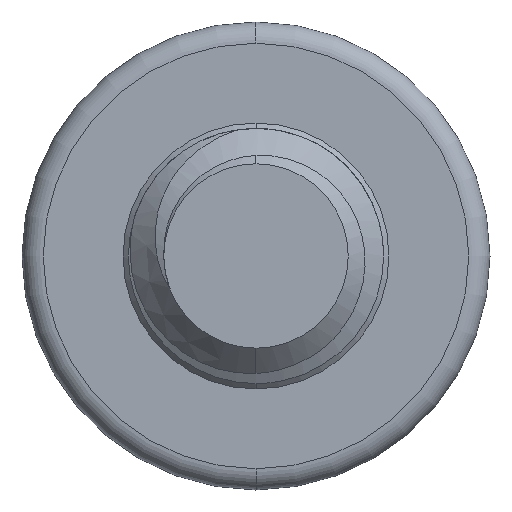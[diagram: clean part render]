
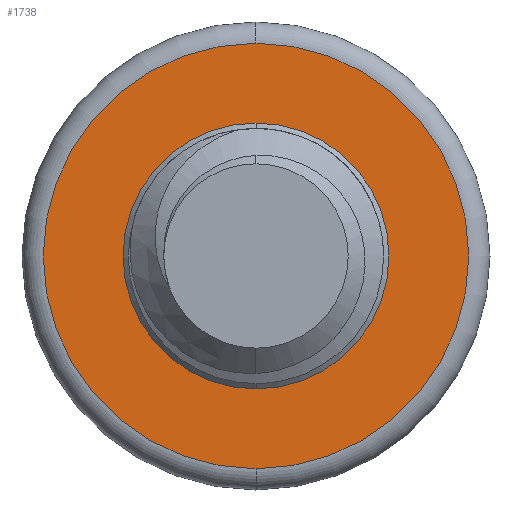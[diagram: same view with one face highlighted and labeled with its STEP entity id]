
A CAD part, left-side view. The second image highlights one B-rep face of the part: STEP entity #1738.
In plain terms, the highlighted planar face has unit normal (-1, 0, 0).
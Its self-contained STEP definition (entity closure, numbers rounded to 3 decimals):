
#90 = DIRECTION ( 'NONE',  ( 0., 0., -1. ) ) ;
#210 = CARTESIAN_POINT ( 'NONE',  ( 2., 0., 1. ) ) ;
#238 = EDGE_LOOP ( 'NONE', ( #472, #3131 ) ) ;
#472 = ORIENTED_EDGE ( 'NONE', *, *, #754, .F. ) ;
#575 = PLANE ( 'NONE',  #1148 ) ;
#638 = DIRECTION ( 'NONE',  ( -1., 0., 0. ) ) ;
#754 = EDGE_CURVE ( 'NONE', #1577, #1064, #3157, .T. ) ;
#774 = CARTESIAN_POINT ( 'NONE',  ( 2., 0., 0. ) ) ;
#869 = FACE_OUTER_BOUND ( 'NONE', #1425, .T. ) ;
#912 = CIRCLE ( 'NONE', #1328, 0.625 ) ;
#916 = DIRECTION ( 'NONE',  ( -1., 0., 0. ) ) ;
#981 = AXIS2_PLACEMENT_3D ( 'NONE', #3286, #1681, #90 ) ;
#1039 = DIRECTION ( 'NONE',  ( 0., 0., -1. ) ) ;
#1064 = VERTEX_POINT ( 'NONE', #3187 ) ;
#1103 = DIRECTION ( 'NONE',  ( 0., 0., -1. ) ) ;
#1148 = AXIS2_PLACEMENT_3D ( 'NONE', #2430, #2702, #1103 ) ;
#1328 = AXIS2_PLACEMENT_3D ( 'NONE', #2501, #916, #2762 ) ;
#1425 = EDGE_LOOP ( 'NONE', ( #3259, #2049 ) ) ;
#1520 = EDGE_CURVE ( 'NONE', #2741, #1655, #2517, .T. ) ;
#1577 = VERTEX_POINT ( 'NONE', #1699 ) ;
#1655 = VERTEX_POINT ( 'NONE', #2922 ) ;
#1681 = DIRECTION ( 'NONE',  ( -1., 0., 0. ) ) ;
#1699 = CARTESIAN_POINT ( 'NONE',  ( 2., 0., 0.625 ) ) ;
#1738 = ADVANCED_FACE ( 'NONE', ( #869, #2976 ), #575, .F. ) ;
#1922 = EDGE_CURVE ( 'NONE', #1655, #2741, #3348, .T. ) ;
#1927 = AXIS2_PLACEMENT_3D ( 'NONE', #2216, #638, #2489 ) ;
#2049 = ORIENTED_EDGE ( 'NONE', *, *, #1520, .T. ) ;
#2138 = AXIS2_PLACEMENT_3D ( 'NONE', #774, #2627, #1039 ) ;
#2216 = CARTESIAN_POINT ( 'NONE',  ( 2., 0., 0. ) ) ;
#2430 = CARTESIAN_POINT ( 'NONE',  ( 2., 0., 0. ) ) ;
#2489 = DIRECTION ( 'NONE',  ( 0., 0., -1. ) ) ;
#2501 = CARTESIAN_POINT ( 'NONE',  ( 2., 0., 0. ) ) ;
#2517 = CIRCLE ( 'NONE', #1927, 1. ) ;
#2627 = DIRECTION ( 'NONE',  ( -1., 0., 0. ) ) ;
#2702 = DIRECTION ( 'NONE',  ( 1., 0., 0. ) ) ;
#2741 = VERTEX_POINT ( 'NONE', #210 ) ;
#2762 = DIRECTION ( 'NONE',  ( 0., 0., -1. ) ) ;
#2922 = CARTESIAN_POINT ( 'NONE',  ( 2., 0., -1. ) ) ;
#2976 = FACE_BOUND ( 'NONE', #238, .T. ) ;
#3081 = EDGE_CURVE ( 'NONE', #1064, #1577, #912, .T. ) ;
#3131 = ORIENTED_EDGE ( 'NONE', *, *, #3081, .F. ) ;
#3157 = CIRCLE ( 'NONE', #2138, 0.625 ) ;
#3187 = CARTESIAN_POINT ( 'NONE',  ( 2., 0., -0.625 ) ) ;
#3259 = ORIENTED_EDGE ( 'NONE', *, *, #1922, .T. ) ;
#3286 = CARTESIAN_POINT ( 'NONE',  ( 2., 0., 0. ) ) ;
#3348 = CIRCLE ( 'NONE', #981, 1. ) ;
